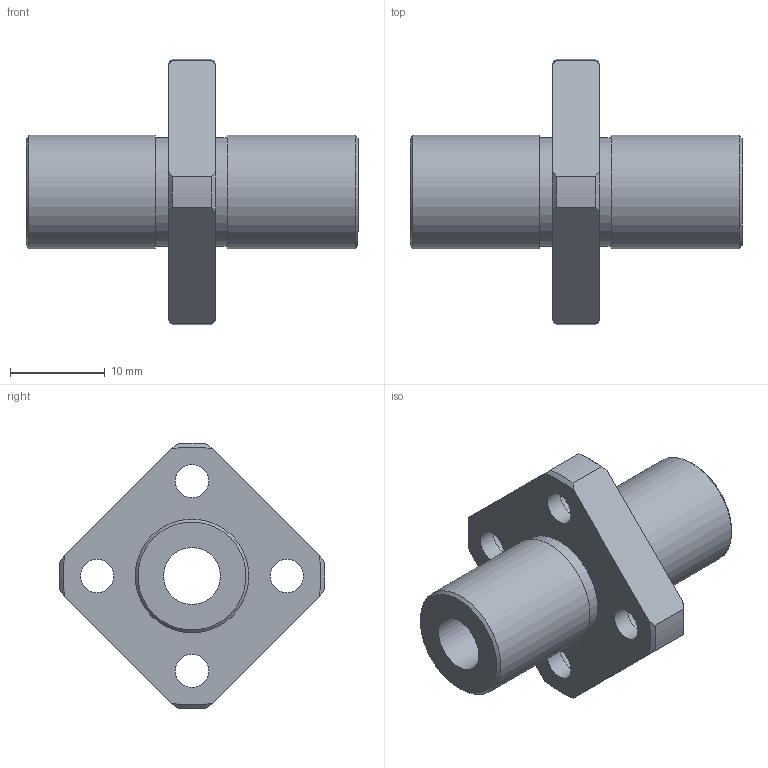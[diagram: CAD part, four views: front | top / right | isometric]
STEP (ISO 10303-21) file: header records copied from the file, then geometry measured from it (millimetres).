
FILE_DESCRIPTION(('STEP AP203'),'1');
FILE_NAME('//192.168.1.1/share/s-4 技術開発/s-4-4_CAD/s-4-4-3_見直し済み/002 修正済み/NFCS-VL/NFCS-VL_TOP/NFCS-6VLUU.step','2022-03-08T04:38:00',(' '),(' '),'Spatial InterOp 3D',' ',' ');
FILE_SCHEMA(('CONFIG_CONTROL_DESIGN'));
Length unit declared in the file: millimetre
Products named in the file (1): 1
Bounding box: 35 x 27.98 x 27.98 mm (x, y, z)
Volume: 4319.5 mm3; surface area: 3346.7 mm2
Topology: 1 solids, 1 shells, 41 faces, 101 edges, 70 vertices
Faces by surface type: cylinder 17, plane 14, cone 10
Full cylindrical faces by diameter (mm): 3.5 x4, 6 x5, 11.5 x2, 12 x2
Entity records: 1158 total; most frequent: CARTESIAN_POINT 226, DIRECTION 188, ORIENTED_EDGE 152, AXIS2_PLACEMENT_3D 86, EDGE_CURVE 76, EDGE_LOOP 74, VERTEX_POINT 60, FACE_OUTER_BOUND 54
